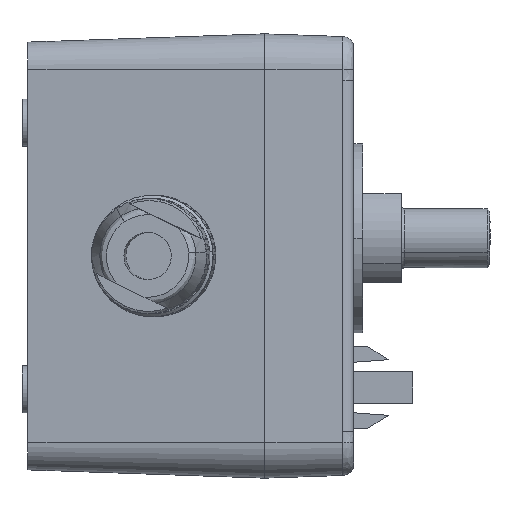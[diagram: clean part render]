
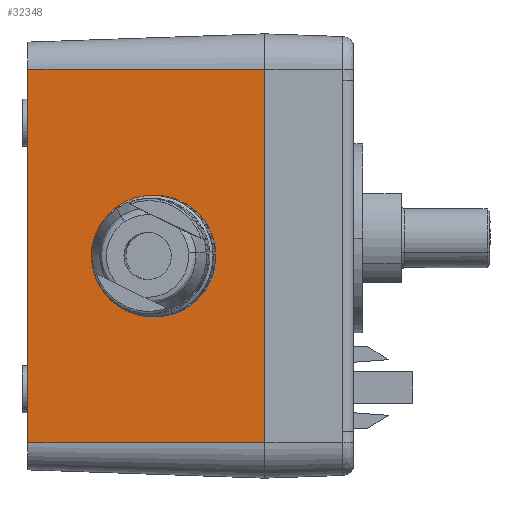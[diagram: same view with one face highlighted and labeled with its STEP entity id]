
A CAD part, front view. The second image highlights one B-rep face of the part: STEP entity #32348.
In plain terms, the highlighted planar face has unit normal (-0.035, -0.999, 0) as drawn and (0.999, -0.035, 0) by its records, which use the part's own axes.
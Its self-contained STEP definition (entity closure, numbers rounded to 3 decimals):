
#32291=CARTESIAN_POINT('Axis2P3D Location',(53.603,-40.,-31.5)) ;
#32296=CARTESIAN_POINT('Line Origine',(55.,0.,0.)) ;
#32300=CARTESIAN_POINT('Vertex',(55.,0.,-31.5)) ;
#32302=CARTESIAN_POINT('Vertex',(55.,0.,31.5)) ;
#32305=CARTESIAN_POINT('Line Origine',(54.302,-20.,31.5)) ;
#32309=CARTESIAN_POINT('Vertex',(53.603,-40.,31.5)) ;
#32312=CARTESIAN_POINT('Line Origine',(53.603,-40.,0.)) ;
#32316=CARTESIAN_POINT('Vertex',(53.603,-40.,-31.5)) ;
#32319=CARTESIAN_POINT('Line Origine',(54.302,-20.,-31.5)) ;
#32330=CARTESIAN_POINT('Axis2P3D Location',(54.372,-17.989,0.)) ;
#32334=CARTESIAN_POINT('Vertex',(54.415,-16.74,-5.868)) ;
#32336=CARTESIAN_POINT('Vertex',(54.328,-19.238,-5.868)) ;
#32339=CARTESIAN_POINT('Axis2P3D Location',(54.372,-17.989,-6.5)) ;
#32292=DIRECTION('Axis2P3D Direction',(0.999,-0.035,0.)) ;
#32293=DIRECTION('Axis2P3D XDirection',(0.035,0.999,0.)) ;
#32297=DIRECTION('Vector Direction',(0.,0.,1.)) ;
#32306=DIRECTION('Vector Direction',(-0.035,-0.999,0.)) ;
#32313=DIRECTION('Vector Direction',(0.,0.,-1.)) ;
#32320=DIRECTION('Vector Direction',(0.035,0.999,0.)) ;
#32331=DIRECTION('Axis2P3D Direction',(0.999,-0.035,0.)) ;
#32340=DIRECTION('Axis2P3D Direction',(0.999,-0.035,0.)) ;
#32294=AXIS2_PLACEMENT_3D('Plane Axis2P3D',#32291,#32292,#32293) ;
#32332=AXIS2_PLACEMENT_3D('Circle Axis2P3D',#32330,#32331,$) ;
#32341=AXIS2_PLACEMENT_3D('Circle Axis2P3D',#32339,#32340,$) ;
#32325=ORIENTED_EDGE('',*,*,#32304,.T.) ;
#32326=ORIENTED_EDGE('',*,*,#32311,.T.) ;
#32327=ORIENTED_EDGE('',*,*,#32318,.T.) ;
#32328=ORIENTED_EDGE('',*,*,#32323,.T.) ;
#32345=ORIENTED_EDGE('',*,*,#32338,.F.) ;
#32346=ORIENTED_EDGE('',*,*,#32343,.T.) ;
#32347=FACE_BOUND('',#32344,.T.) ;
#32298=VECTOR('Line Direction',#32297,1.) ;
#32307=VECTOR('Line Direction',#32306,1.) ;
#32314=VECTOR('Line Direction',#32313,1.) ;
#32321=VECTOR('Line Direction',#32320,1.) ;
#32348=ADVANCED_FACE('Trennen.1',(#32329,#32347),#32295,.T.) ;
#32333=CIRCLE('generated circle',#32332,6.) ;
#32342=CIRCLE('generated circle',#32341,1.4) ;
#32304=EDGE_CURVE('',#32301,#32303,#32299,.T.) ;
#32311=EDGE_CURVE('',#32303,#32310,#32308,.T.) ;
#32318=EDGE_CURVE('',#32310,#32317,#32315,.T.) ;
#32323=EDGE_CURVE('',#32317,#32301,#32322,.T.) ;
#32338=EDGE_CURVE('',#32335,#32337,#32333,.T.) ;
#32343=EDGE_CURVE('',#32335,#32337,#32342,.T.) ;
#32324=EDGE_LOOP('',(#32325,#32326,#32327,#32328)) ;
#32344=EDGE_LOOP('',(#32345,#32346)) ;
#32329=FACE_OUTER_BOUND('',#32324,.T.) ;
#32299=LINE('Line',#32296,#32298) ;
#32308=LINE('Line',#32305,#32307) ;
#32315=LINE('Line',#32312,#32314) ;
#32322=LINE('Line',#32319,#32321) ;
#32295=PLANE('',#32294) ;
#32301=VERTEX_POINT('',#32300) ;
#32303=VERTEX_POINT('',#32302) ;
#32310=VERTEX_POINT('',#32309) ;
#32317=VERTEX_POINT('',#32316) ;
#32335=VERTEX_POINT('',#32334) ;
#32337=VERTEX_POINT('',#32336) ;
